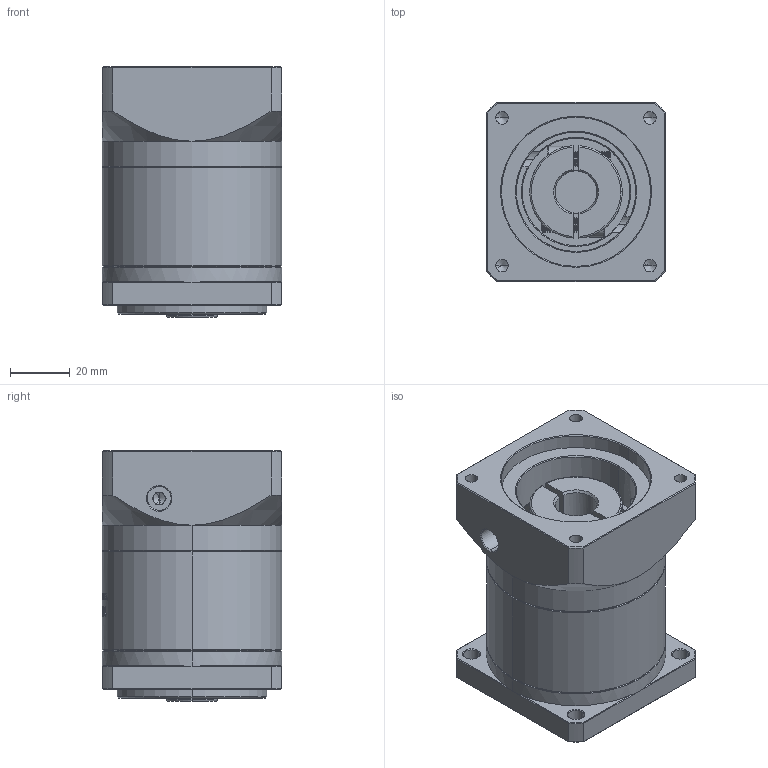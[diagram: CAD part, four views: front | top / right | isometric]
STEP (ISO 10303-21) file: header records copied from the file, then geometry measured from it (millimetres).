
FILE_DESCRIPTION (( 'STEP AP214' ), '1' );
FILE_NAME ('ZF60-K10-L1-14-50-70-M5.STEP', '2022-04-17T11:52:10', ( '' ), ( 'Microsoft' ), 'SwSTEP 2.0', 'SolidWorks 2016', '' );
FILE_SCHEMA (( 'AUTOMOTIVE_DESIGN' ));
Length unit declared in the file: millimetre
Products named in the file (1): ZF60-K10-L1-14-50-70-M5
Bounding box: 60 x 60 x 84 mm (x, y, z)
Volume: 213797.5 mm3; surface area: 42545.5 mm2
Topology: 6 solids, 6 shells, 1451 faces, 3903 edges, 2527 vertices
Faces by surface type: plane 729, bspline 280, cone 228, cylinder 196, torus 18
Entity records: 73288 total; most frequent: CARTESIAN_POINT 23663, ORIENTED_EDGE 7782, DIRECTION 5933, EDGE_CURVE 3891, VERTEX_POINT 2527, LINE 2061, VECTOR 2061, AXIS2_PLACEMENT_3D 1936
